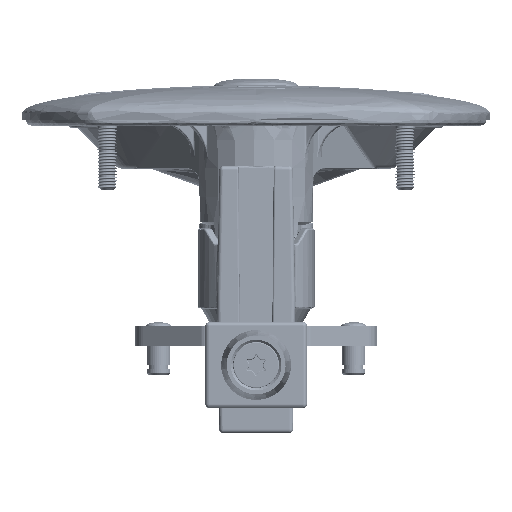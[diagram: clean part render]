
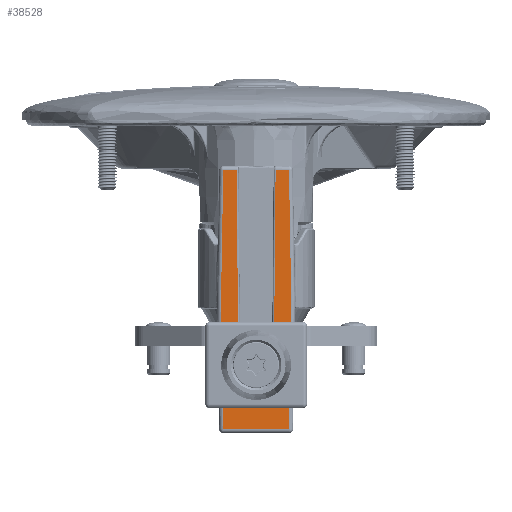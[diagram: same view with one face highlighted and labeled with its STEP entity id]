
A CAD part, left-side view. The second image highlights one B-rep face of the part: STEP entity #38528.
In plain terms, the highlighted planar face has unit normal (-1, 0, 0).
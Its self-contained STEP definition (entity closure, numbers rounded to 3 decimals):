
#38528 = ADVANCED_FACE ( 'NONE', ( #226344 ), #50843, .F. ) ;
#50843 = PLANE ( 'NONE',  #54321 ) ;
#50917 = CARTESIAN_POINT ( 'NONE',  ( -24., 10., 46.928 ) ) ;
#54321 = AXIS2_PLACEMENT_3D ( 'NONE', #50917, #64058, #64059 ) ;
#64058 = DIRECTION ( 'NONE',  ( 1., 0., 0. ) ) ;
#64059 = DIRECTION ( 'NONE',  ( 0., 1., 0. ) ) ;
#66695 = CARTESIAN_POINT ( 'NONE',  ( -24., -9., 6.5 ) ) ;
#66706 = CARTESIAN_POINT ( 'NONE',  ( -24., 9., 6.5 ) ) ;
#66732 = CARTESIAN_POINT ( 'NONE',  ( -24., -8.424, -26.5 ) ) ;
#66743 = CARTESIAN_POINT ( 'NONE',  ( -24., -4.991, 40. ) ) ;
#66746 = CARTESIAN_POINT ( 'NONE',  ( -24., 8.415, 40. ) ) ;
#66785 = CARTESIAN_POINT ( 'NONE',  ( -24., 4.502, -16.039 ) ) ;
#66809 = CARTESIAN_POINT ( 'NONE',  ( -24., -8.415, 40. ) ) ;
#66818 = CARTESIAN_POINT ( 'NONE',  ( -24., 8.424, -26.5 ) ) ;
#66858 = CARTESIAN_POINT ( 'NONE',  ( -24., 4.991, 40. ) ) ;
#66887 = CARTESIAN_POINT ( 'NONE',  ( -24., -4.502, -16.039 ) ) ;
#108196 = VERTEX_POINT ( 'NONE', #66695 ) ;
#108207 = VERTEX_POINT ( 'NONE', #66706 ) ;
#108233 = VERTEX_POINT ( 'NONE', #66732 ) ;
#108244 = VERTEX_POINT ( 'NONE', #66743 ) ;
#108247 = VERTEX_POINT ( 'NONE', #66746 ) ;
#108286 = VERTEX_POINT ( 'NONE', #66785 ) ;
#108310 = VERTEX_POINT ( 'NONE', #66809 ) ;
#108319 = VERTEX_POINT ( 'NONE', #66818 ) ;
#108359 = VERTEX_POINT ( 'NONE', #66858 ) ;
#108388 = VERTEX_POINT ( 'NONE', #66887 ) ;
#109016 = ORIENTED_EDGE ( 'NONE', *, *, #211255, .T. ) ;
#109017 = ORIENTED_EDGE ( 'NONE', *, *, #211253, .T. ) ;
#109018 = ORIENTED_EDGE ( 'NONE', *, *, #211226, .T. ) ;
#109019 = ORIENTED_EDGE ( 'NONE', *, *, #211257, .T. ) ;
#109020 = ORIENTED_EDGE ( 'NONE', *, *, #211250, .T. ) ;
#109021 = ORIENTED_EDGE ( 'NONE', *, *, #211251, .T. ) ;
#109022 = ORIENTED_EDGE ( 'NONE', *, *, #211259, .T. ) ;
#109023 = ORIENTED_EDGE ( 'NONE', *, *, #211261, .T. ) ;
#109024 = ORIENTED_EDGE ( 'NONE', *, *, #211263, .T. ) ;
#109025 = ORIENTED_EDGE ( 'NONE', *, *, #211265, .T. ) ;
#111305 = EDGE_LOOP ( 'NONE', ( #109016, #109017, #109018, #109019, #109020, #109021, #109022, #109023, #109024, #109025 ) ) ;
#122881 = VECTOR ( 'NONE', #172554, 1000. ) ;
#122884 = CIRCLE ( 'NONE', #143750, 4.502 ) ;
#122887 = LINE ( 'NONE', #172552, #122881 ) ;
#122889 = LINE ( 'NONE', #172557, #122890 ) ;
#122890 = VECTOR ( 'NONE', #172558, 1000. ) ;
#122891 = LINE ( 'NONE', #172561, #122892 ) ;
#122892 = VECTOR ( 'NONE', #172563, 1000. ) ;
#122893 = LINE ( 'NONE', #172566, #122894 ) ;
#122894 = VECTOR ( 'NONE', #172568, 1000. ) ;
#122895 = LINE ( 'NONE', #172572, #122896 ) ;
#122896 = VECTOR ( 'NONE', #172573, 1000. ) ;
#122897 = LINE ( 'NONE', #172576, #122898 ) ;
#122898 = VECTOR ( 'NONE', #172578, 1000. ) ;
#122899 = LINE ( 'NONE', #172581, #122900 ) ;
#122900 = VECTOR ( 'NONE', #172583, 1000. ) ;
#122901 = LINE ( 'NONE', #172586, #122902 ) ;
#122902 = VECTOR ( 'NONE', #172588, 1000. ) ;
#122903 = LINE ( 'NONE', #172590, #122904 ) ;
#122904 = VECTOR ( 'NONE', #172592, 1000. ) ;
#143750 = AXIS2_PLACEMENT_3D ( 'NONE', #172402, #172442, #172443 ) ;
#172402 = CARTESIAN_POINT ( 'NONE',  ( -24., 0., -16. ) ) ;
#172442 = DIRECTION ( 'NONE',  ( 1., 0., 0. ) ) ;
#172443 = DIRECTION ( 'NONE',  ( 0., 1., 0. ) ) ;
#172552 = CARTESIAN_POINT ( 'NONE',  ( -24., 9.398, 40. ) ) ;
#172554 = DIRECTION ( 'NONE',  ( 0., 1., 0. ) ) ;
#172557 = CARTESIAN_POINT ( 'NONE',  ( -24., 8.295, 46.898 ) ) ;
#172558 = DIRECTION ( 'NONE',  ( 0., 0.017, -1. ) ) ;
#172561 = CARTESIAN_POINT ( 'NONE',  ( -24., -5.051, 46.796 ) ) ;
#172563 = DIRECTION ( 'NONE',  ( 0., 0.009, -1. ) ) ;
#172566 = CARTESIAN_POINT ( 'NONE',  ( -24., -4.5, 40. ) ) ;
#172568 = DIRECTION ( 'NONE',  ( 0., 1., 0. ) ) ;
#172572 = CARTESIAN_POINT ( 'NONE',  ( -24., 5.052, 46.971 ) ) ;
#172573 = DIRECTION ( 'NONE',  ( 0., 0.009, 1. ) ) ;
#172576 = CARTESIAN_POINT ( 'NONE',  ( -24., 9.706, 46.933 ) ) ;
#172578 = DIRECTION ( 'NONE',  ( 0., -0.017, -1. ) ) ;
#172581 = CARTESIAN_POINT ( 'NONE',  ( -24., -9.407, -26.5 ) ) ;
#172583 = DIRECTION ( 'NONE',  ( 0., -1., 0. ) ) ;
#172586 = CARTESIAN_POINT ( 'NONE',  ( -24., -9.7, 46.584 ) ) ;
#172588 = DIRECTION ( 'NONE',  ( 0., -0.017, 1. ) ) ;
#172590 = CARTESIAN_POINT ( 'NONE',  ( -24., -8.289, 47.247 ) ) ;
#172592 = DIRECTION ( 'NONE',  ( 0., 0.017, 1. ) ) ;
#211226 = EDGE_CURVE ( 'NONE', #108388, #108286, #122884, .T. ) ;
#211250 = EDGE_CURVE ( 'NONE', #108359, #108247, #122887, .T. ) ;
#211251 = EDGE_CURVE ( 'NONE', #108247, #108207, #122889, .T. ) ;
#211253 = EDGE_CURVE ( 'NONE', #108244, #108388, #122891, .T. ) ;
#211255 = EDGE_CURVE ( 'NONE', #108310, #108244, #122893, .T. ) ;
#211257 = EDGE_CURVE ( 'NONE', #108286, #108359, #122895, .T. ) ;
#211259 = EDGE_CURVE ( 'NONE', #108207, #108319, #122897, .T. ) ;
#211261 = EDGE_CURVE ( 'NONE', #108319, #108233, #122899, .T. ) ;
#211263 = EDGE_CURVE ( 'NONE', #108233, #108196, #122901, .T. ) ;
#211265 = EDGE_CURVE ( 'NONE', #108196, #108310, #122903, .T. ) ;
#226344 = FACE_OUTER_BOUND ( 'NONE', #111305, .T. ) ;
